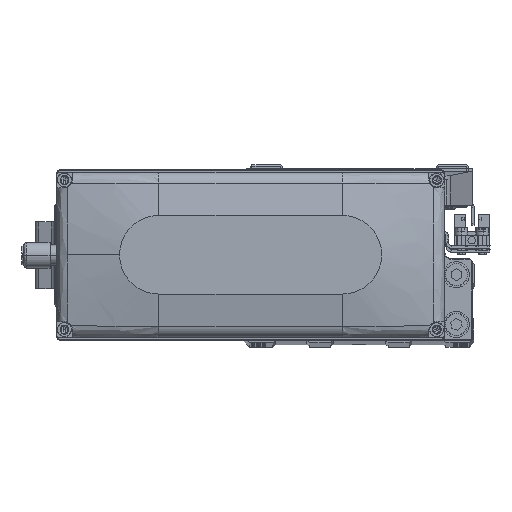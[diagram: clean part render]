
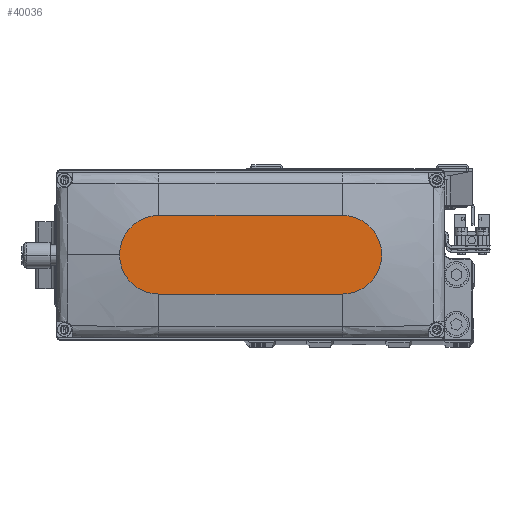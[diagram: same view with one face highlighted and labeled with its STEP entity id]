
A CAD part, top view. The second image highlights one B-rep face of the part: STEP entity #40036.
In plain terms, the highlighted planar face has unit normal (0, 0, 1).
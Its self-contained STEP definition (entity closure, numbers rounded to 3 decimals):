
#617 = CARTESIAN_POINT ( 'NONE',  ( -35., 0., 35. ) ) ;
#673 = CARTESIAN_POINT ( 'NONE',  ( 35., 0., 35. ) ) ;
#2873 = CARTESIAN_POINT ( 'NONE',  ( -35., -15., 35. ) ) ;
#3249 = AXIS2_PLACEMENT_3D ( 'NONE', #617, #16032, #31429 ) ;
#3383 = DIRECTION ( 'NONE',  ( 0., 0., 1. ) ) ;
#3740 = AXIS2_PLACEMENT_3D ( 'NONE', #37986, #3383, #18792 ) ;
#4529 = LINE ( 'NONE', #19927, #42521 ) ;
#6648 = CARTESIAN_POINT ( 'NONE',  ( 35., -15., 35. ) ) ;
#7230 = VERTEX_POINT ( 'NONE', #2873 ) ;
#8385 = DIRECTION ( 'NONE',  ( 0., 0., 1. ) ) ;
#8558 = ORIENTED_EDGE ( 'NONE', *, *, #30756, .T. ) ;
#10788 = VERTEX_POINT ( 'NONE', #6648 ) ;
#11313 = VECTOR ( 'NONE', #43324, 1000. ) ;
#11973 = VERTEX_POINT ( 'NONE', #25354 ) ;
#12167 = FACE_OUTER_BOUND ( 'NONE', #19258, .T. ) ;
#12469 = LINE ( 'NONE', #27887, #11313 ) ;
#16032 = DIRECTION ( 'NONE',  ( 0., 0., 1. ) ) ;
#16084 = DIRECTION ( 'NONE',  ( 0., 0., 1. ) ) ;
#16999 = CIRCLE ( 'NONE', #45231, 15. ) ;
#18792 = DIRECTION ( 'NONE',  ( 1., 0., 0. ) ) ;
#19258 = EDGE_LOOP ( 'NONE', ( #33700, #31747, #8558, #46902, #21984 ) ) ;
#19927 = CARTESIAN_POINT ( 'NONE',  ( -35., -15., 35. ) ) ;
#20147 = CARTESIAN_POINT ( 'NONE',  ( 50., 0., 35. ) ) ;
#21984 = ORIENTED_EDGE ( 'NONE', *, *, #44401, .T. ) ;
#23783 = EDGE_CURVE ( 'NONE', #11973, #7230, #25030, .T. ) ;
#23812 = DIRECTION ( 'NONE',  ( 1., 0., 0. ) ) ;
#25030 = CIRCLE ( 'NONE', #3249, 15. ) ;
#25354 = CARTESIAN_POINT ( 'NONE',  ( -35., 15., 35. ) ) ;
#25533 = CIRCLE ( 'NONE', #3740, 15. ) ;
#25549 = VERTEX_POINT ( 'NONE', #26033 ) ;
#26033 = CARTESIAN_POINT ( 'NONE',  ( 35., 15., 35. ) ) ;
#27587 = PLANE ( 'NONE',  #41301 ) ;
#27887 = CARTESIAN_POINT ( 'NONE',  ( -35., 15., 35. ) ) ;
#29395 = VERTEX_POINT ( 'NONE', #20147 ) ;
#30266 = EDGE_CURVE ( 'NONE', #10788, #29395, #25533, .T. ) ;
#30756 = EDGE_CURVE ( 'NONE', #7230, #10788, #4529, .T. ) ;
#31429 = DIRECTION ( 'NONE',  ( 1., 0., 0. ) ) ;
#31485 = DIRECTION ( 'NONE',  ( 1., 0., 0. ) ) ;
#31747 = ORIENTED_EDGE ( 'NONE', *, *, #23783, .T. ) ;
#33700 = ORIENTED_EDGE ( 'NONE', *, *, #38530, .T. ) ;
#35344 = DIRECTION ( 'NONE',  ( 1., 0., 0. ) ) ;
#37986 = CARTESIAN_POINT ( 'NONE',  ( 35., 0., 35. ) ) ;
#38530 = EDGE_CURVE ( 'NONE', #25549, #11973, #12469, .T. ) ;
#40036 = ADVANCED_FACE ( 'NONE', ( #12167 ), #27587, .T. ) ;
#41301 = AXIS2_PLACEMENT_3D ( 'NONE', #43004, #8385, #23812 ) ;
#42521 = VECTOR ( 'NONE', #35344, 1000. ) ;
#43004 = CARTESIAN_POINT ( 'NONE',  ( 0., 0., 35. ) ) ;
#43324 = DIRECTION ( 'NONE',  ( -1., 0., 0. ) ) ;
#44401 = EDGE_CURVE ( 'NONE', #29395, #25549, #16999, .T. ) ;
#45231 = AXIS2_PLACEMENT_3D ( 'NONE', #673, #16084, #31485 ) ;
#46902 = ORIENTED_EDGE ( 'NONE', *, *, #30266, .T. ) ;
